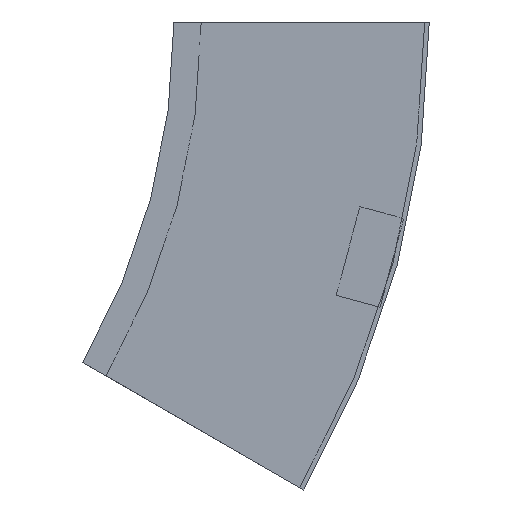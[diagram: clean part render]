
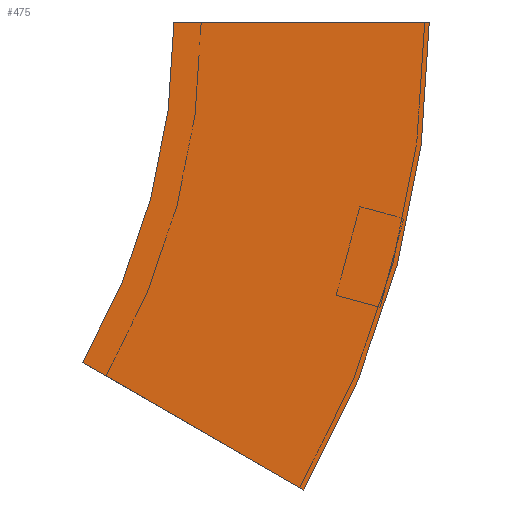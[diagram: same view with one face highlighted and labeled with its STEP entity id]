
A CAD part, left-side view. The second image highlights one B-rep face of the part: STEP entity #475.
In plain terms, the highlighted planar face has unit normal (-1, 0, 0) as drawn and (1, 0, 0) by its records, which use the part's own axes.
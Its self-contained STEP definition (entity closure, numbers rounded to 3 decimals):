
#8 = DIRECTION ( 'NONE',  ( 0., 0., 1. ) ) ;
#17 = CARTESIAN_POINT ( 'NONE',  ( 0., -112.5, 0. ) ) ;
#30 = DIRECTION ( 'NONE',  ( 1., 0., 0. ) ) ;
#42 = CARTESIAN_POINT ( 'NONE',  ( 0., 300., 0. ) ) ;
#55 = FACE_OUTER_BOUND ( 'NONE', #511, .T. ) ;
#83 = DIRECTION ( 'NONE',  ( 0., -1., 0. ) ) ;
#95 = VERTEX_POINT ( 'NONE', #546 ) ;
#96 = CARTESIAN_POINT ( 'NONE',  ( 0., -112.5, 0. ) ) ;
#152 = EDGE_CURVE ( 'NONE', #373, #355, #427, .T. ) ;
#156 = LINE ( 'NONE', #17, #524 ) ;
#172 = ORIENTED_EDGE ( 'NONE', *, *, #414, .F. ) ;
#179 = CIRCLE ( 'NONE', #223, 300. ) ;
#182 = EDGE_CURVE ( 'NONE', #95, #373, #529, .T. ) ;
#183 = PLANE ( 'NONE',  #388 ) ;
#187 = CARTESIAN_POINT ( 'NONE',  ( 0., 40.192, -150. ) ) ;
#196 = CARTESIAN_POINT ( 'NONE',  ( 0., 0., 0. ) ) ;
#199 = ORIENTED_EDGE ( 'NONE', *, *, #545, .F. ) ;
#206 = DIRECTION ( 'NONE',  ( 0., -1., 0. ) ) ;
#223 = AXIS2_PLACEMENT_3D ( 'NONE', #42, #30, #83 ) ;
#229 = DIRECTION ( 'NONE',  ( -1., 0., 0. ) ) ;
#264 = CARTESIAN_POINT ( 'NONE',  ( 0., 300., 0. ) ) ;
#292 = DIRECTION ( 'NONE',  ( 0., 0.866, 0.5 ) ) ;
#323 = AXIS2_PLACEMENT_3D ( 'NONE', #264, #405, #206 ) ;
#333 = VERTEX_POINT ( 'NONE', #196 ) ;
#355 = VERTEX_POINT ( 'NONE', #187 ) ;
#361 = VECTOR ( 'NONE', #292, 1000. ) ;
#373 = VERTEX_POINT ( 'NONE', #521 ) ;
#385 = CARTESIAN_POINT ( 'NONE',  ( 0., -57.235, -206.25 ) ) ;
#388 = AXIS2_PLACEMENT_3D ( 'NONE', #96, #229, #8 ) ;
#405 = DIRECTION ( 'NONE',  ( 1., 0., 0. ) ) ;
#414 = EDGE_CURVE ( 'NONE', #333, #355, #179, .T. ) ;
#427 = LINE ( 'NONE', #385, #361 ) ;
#468 = ORIENTED_EDGE ( 'NONE', *, *, #182, .T. ) ;
#475 = ADVANCED_FACE ( 'NONE', ( #55 ), #183, .F. ) ;
#504 = DIRECTION ( 'NONE',  ( 0., 1., 0. ) ) ;
#511 = EDGE_LOOP ( 'NONE', ( #172, #199, #468, #549 ) ) ;
#521 = CARTESIAN_POINT ( 'NONE',  ( 0., -57.235, -206.25 ) ) ;
#524 = VECTOR ( 'NONE', #504, 1000. ) ;
#529 = CIRCLE ( 'NONE', #323, 412.5 ) ;
#545 = EDGE_CURVE ( 'NONE', #95, #333, #156, .T. ) ;
#546 = CARTESIAN_POINT ( 'NONE',  ( 0., -112.5, 0. ) ) ;
#549 = ORIENTED_EDGE ( 'NONE', *, *, #152, .T. ) ;
